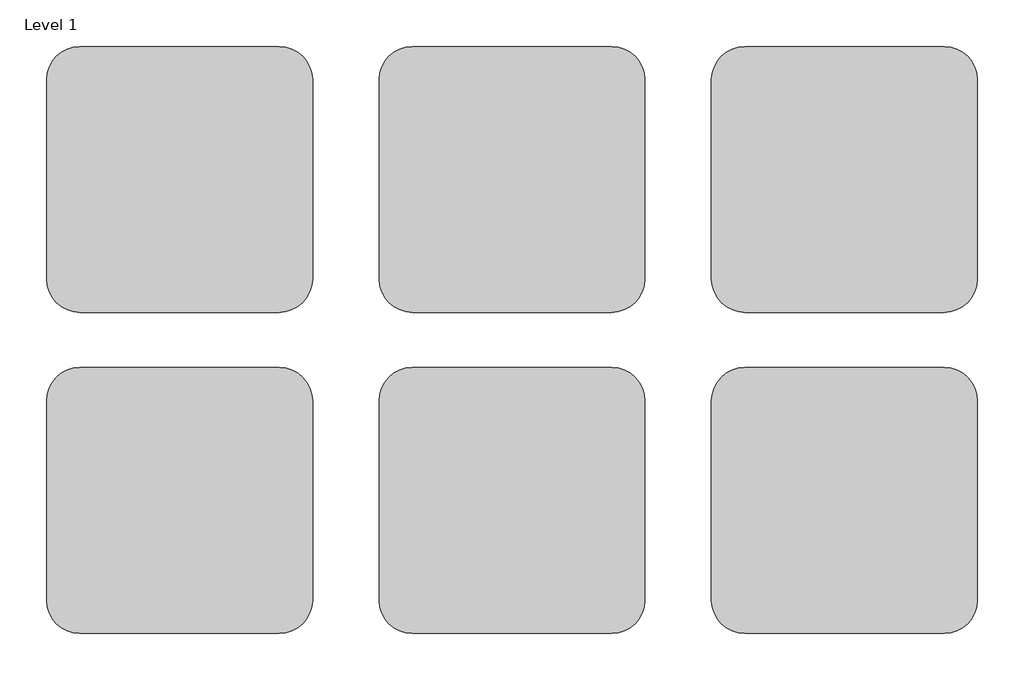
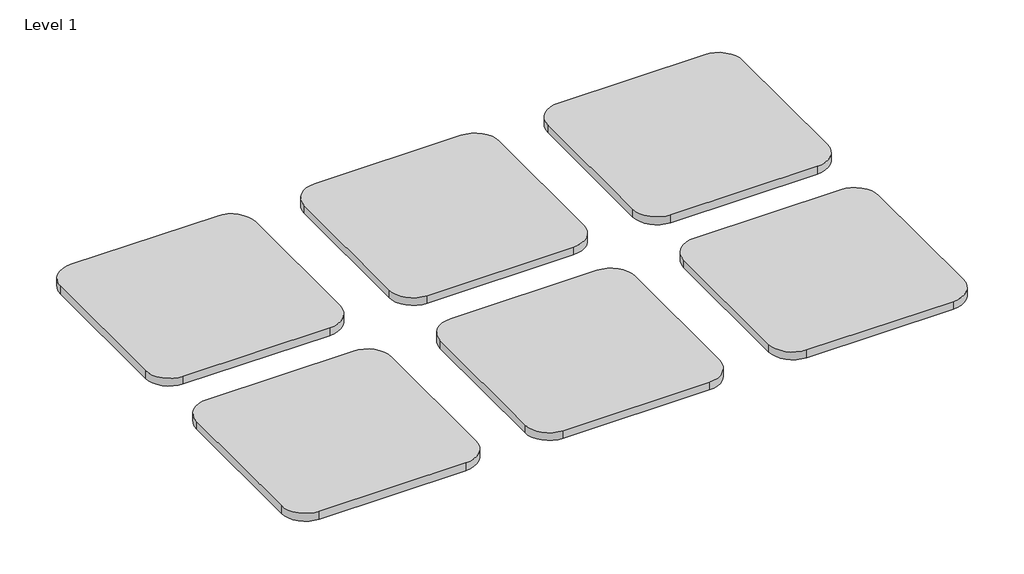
# One storey: 6 proxies.
"""IFC4 building model written with IfcOpenShell, lengths in millimetres."""

from ifc_helpers import new_model, si_unit, origin, place, context, project, spatial, transform, mapped, element, save
from components import materialsample_type_1_9638d12c

model = new_model("IFC4")

# Units and contexts
model_context = context("Model", 3, world=origin())
ifc_project = project(units=[si_unit("LENGTHUNIT", "METRE", prefix="MILLI")], contexts=[model_context])

# Site, building, storey
site = spatial("IfcSite", under=ifc_project)
building = spatial("IfcBuilding", under=site)
storey = spatial("IfcBuildingStorey", under=building, Name="Level 1", Elevation=0.0)

# Proxies
placement = place(None, origin())
materialsample_type_1_shape = materialsample_type_1_9638d12c(model_context)
element("IfcBuildingElementProxy", 1, Name="MaterialSample : Type 1", ObjectType="MaterialSample : Type 1", at=placement, inside=storey, context=model_context, shape_type="MappedRepresentation", body=[
    mapped(materialsample_type_1_shape, transform((357.9336985, 1861.2552324, 0.0), x_axis=(1.0, 0.0, 0.0), y_axis=(0.0, 1.0, 0.0), z_axis=(0.0, 0.0, 1.0))),
])
element("IfcBuildingElementProxy", 2, Name="MaterialSample : Type 1", ObjectType="MaterialSample : Type 1", at=placement, inside=storey, context=model_context, shape_type="MappedRepresentation", body=[
    mapped(materialsample_type_1_shape, transform((1119.9336985, 1861.2552324, 0.0), x_axis=(1.0, 0.0, 0.0), y_axis=(0.0, 1.0, 0.0), z_axis=(0.0, 0.0, 1.0))),
])
element("IfcBuildingElementProxy", 3, Name="MaterialSample : Type 1", ObjectType="MaterialSample : Type 1", at=placement, inside=storey, context=model_context, shape_type="MappedRepresentation", body=[
    mapped(materialsample_type_1_shape, transform((1881.9336985, 1861.2552324, 0.0), x_axis=(1.0, 0.0, 0.0), y_axis=(0.0, 1.0, 0.0), z_axis=(0.0, 0.0, 1.0))),
])
element("IfcBuildingElementProxy", 4, Name="MaterialSample : Type 1", ObjectType="MaterialSample : Type 1", at=placement, inside=storey, context=model_context, shape_type="MappedRepresentation", body=[
    mapped(materialsample_type_1_shape, transform((357.9336985, 1124.8680796, 0.0), x_axis=(1.0, 0.0, 0.0), y_axis=(0.0, 1.0, 0.0), z_axis=(0.0, 0.0, 1.0))),
])
element("IfcBuildingElementProxy", 5, Name="MaterialSample : Type 1", ObjectType="MaterialSample : Type 1", at=placement, inside=storey, context=model_context, shape_type="MappedRepresentation", body=[
    mapped(materialsample_type_1_shape, transform((1119.9336985, 1124.8680796, 0.0), x_axis=(1.0, 0.0, 0.0), y_axis=(0.0, 1.0, 0.0), z_axis=(0.0, 0.0, 1.0))),
])
element("IfcBuildingElementProxy", 6, Name="MaterialSample : Type 1", ObjectType="MaterialSample : Type 1", at=placement, inside=storey, context=model_context, shape_type="MappedRepresentation", body=[
    mapped(materialsample_type_1_shape, transform((1881.9336985, 1124.8680796, 0.0), x_axis=(1.0, 0.0, 0.0), y_axis=(0.0, 1.0, 0.0), z_axis=(0.0, 0.0, 1.0))),
])

save(model, "model.ifc")
